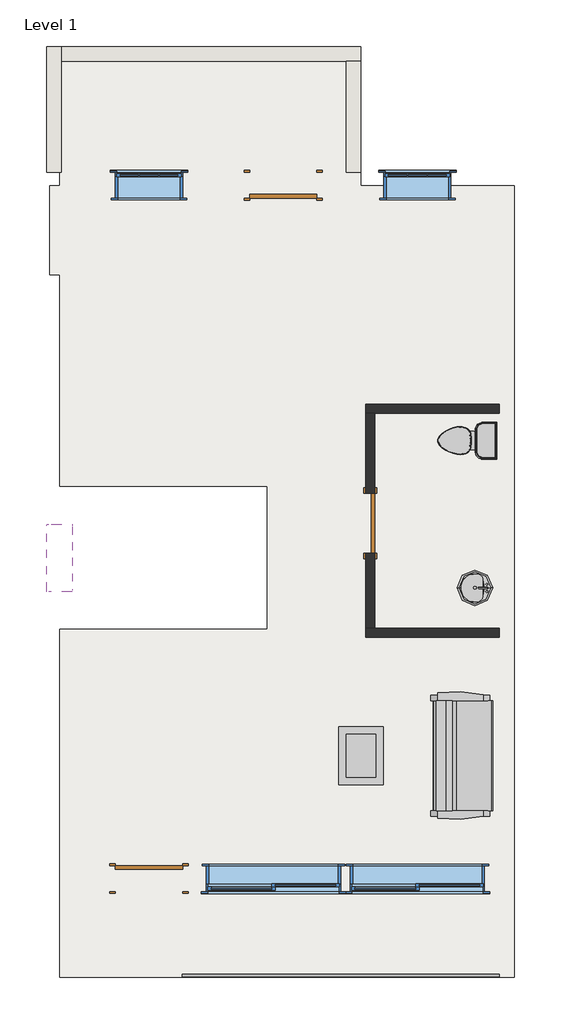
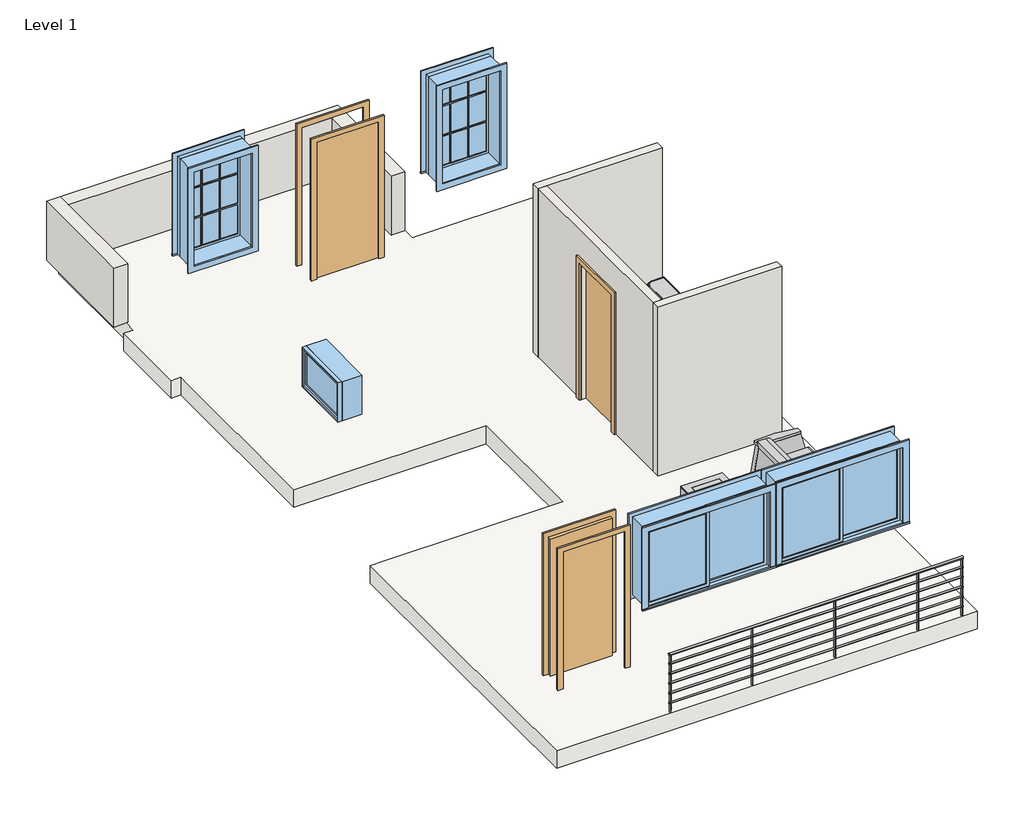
# One storey: 6 walls, 5 windows, 3 doors, 2 flow terminals, 2 furniture elements, 1 railing, 1 slab.
"""IFC4 building model written with IfcOpenShell, lengths in millimetres."""

from ifc_helpers import new_model, si_unit, frame, origin, place, context, project, spatial, polyline, outline, extrude, faceted_brep, transform, mapped, element, save
from components import door_8a652669, door_cc5399a4, flow_terminal_5184717d, toilet_domestic_3d_toilet_domestic_3d_f7549cf7, toilet_domestic_3d_toilet_domestic_3d_183bbd19, furniture_7c795298, furniture_5f90431c, handrail_pipe_c4519676, window_2a808394, window_50e48787, slider_with_trim_6_x_4_a8a94e5b

model = new_model("IFC4")

# Units and contexts
model_context = context("Model", 3, world=origin())
ifc_project = project(units=[si_unit("LENGTHUNIT", "METRE", prefix="MILLI")], contexts=[model_context])

# Site, building, storey
site = spatial("IfcSite", under=ifc_project)
building = spatial("IfcBuilding", under=site)
storey = spatial("IfcBuildingStorey", under=building, Name="Level 1", Elevation=152.4)

# Doors
placement = place(None, origin())
door_shape = door_8a652669(model_context)
element("IfcDoor", 1, ObjectType="Single-Flush : 32\" x 84\"", at=placement, inside=storey, context=model_context, shape_type="MappedRepresentation", body=[
    mapped(door_shape, transform((-3823.7391822, -84.3406402, 152.4), x_axis=(0.0, -1.0, 0.0), y_axis=(1.0, 0.0, 0.0), z_axis=(0.0, 0.0, 1.0))),
])
door_2_shape = door_cc5399a4(model_context)
element("IfcDoor", 2, ObjectType="Single-Flush : 36\" x 84\"", at=placement, inside=storey, context=model_context, shape_type="MappedRepresentation", body=[
    mapped(door_2_shape, transform((-6838.6266822, -4926.5671527, 152.4), x_axis=(-1.0, 0.0, 0.0), y_axis=(0.0, -1.0, 0.0), z_axis=(0.0, 0.0, 1.0))),
])
element("IfcDoor", 3, ObjectType="Single-Flush : 36\" x 84\"", at=placement, inside=storey, context=model_context, shape_type="MappedRepresentation", body=[
    mapped(door_2_shape, transform((-5009.8266822, 4522.2328473, 152.4), x_axis=(1.0, 0.0, 0.0), y_axis=(0.0, 1.0, 0.0), z_axis=(0.0, 0.0, 1.0))),
])

# Flow terminals
flow_terminal_shape = flow_terminal_5184717d(model_context)
element("IfcFlowTerminal", 4, ObjectType="Sink Vanity-Round : 19\" x 19\"", at=placement, inside=storey, context=model_context, shape_type="MappedRepresentation", body=[
    mapped(flow_terminal_shape, transform((-2481.4533799, -867.5154122, 152.4), x_axis=(0.0, -1.0, 0.0), y_axis=(1.0, 0.0, 0.0), z_axis=(0.0, 0.0, 1.0))),
])
toilet_domestic_3d_toilet_domestic_3d_shape = toilet_domestic_3d_toilet_domestic_3d_f7549cf7(model_context)
toilet_domestic_3d_toilet_domestic_3d_2_shape = toilet_domestic_3d_toilet_domestic_3d_183bbd19(model_context)
element("IfcFlowTerminal", 5, ObjectType="Toilet-Domestic-3D : Toilet-Domestic-3D", at=placement, inside=storey, context=model_context, shape_type="MappedRepresentation", body=[
    mapped(toilet_domestic_3d_toilet_domestic_3d_shape, transform((-2596.8266822, 1042.4328473, 152.4), x_axis=(0.0, -1.0, 0.0), y_axis=(1.0, 0.0, 0.0), z_axis=(0.0, 0.0, 1.0))),
    mapped(toilet_domestic_3d_toilet_domestic_3d_2_shape, transform((-2596.8266822, 1042.4328473, 152.4), x_axis=(0.0, -1.0, 0.0), y_axis=(1.0, 0.0, 0.0), z_axis=(0.0, 0.0, 1.0))),
])

# Furniture
furniture_shape = furniture_7c795298(model_context)
element("IfcFurniture", 6, ObjectType="Sofa-Pensi : 65\"", at=placement, inside=storey, context=model_context, shape_type="MappedRepresentation", body=[
    mapped(furniture_shape, transform((-2294.3168461, -3528.7734027, 152.4), x_axis=(0.0, 1.0, 0.0), y_axis=(-1.0, 0.0, 0.0), z_axis=(0.0, 0.0, 1.0))),
])
furniture_2_shape = furniture_5f90431c(model_context)
element("IfcFurniture", 7, ObjectType="Table-Coffee : 31\" x 28\" x 24\"", at=placement, inside=storey, context=model_context, shape_type="MappedRepresentation", body=[
    mapped(furniture_2_shape, transform((-3931.9609155, -3154.9560749, 152.4), x_axis=(-1.0, 0.0, 0.0), y_axis=(0.0, -1.0, 0.0), z_axis=(0.0, 0.0, 1.0))),
])

# Railing
handrail_pipe_shape = handrail_pipe_c4519676(model_context)
element("IfcRailing", 8, ObjectType="Handrail - Pipe", at=placement, inside=storey, context=model_context, shape_type="MappedRepresentation", body=[
    mapped(handrail_pipe_shape, transform((0.0, 0.0, 0.0), x_axis=(1.0, 0.0, 0.0), y_axis=(0.0, 1.0, 0.0), z_axis=(0.0, 0.0, 1.0))),
])

# Slab
element("IfcSlab", 9, ObjectType="Wood Joist 10\" - Ceramic Tile", at=placement, inside=storey, context=model_context, shape_type="Brep", body=[
    faceted_brep([(-3950.2266822, 4515.7328473, -120.65), (-2063.4266822, 4515.7328473, -120.65), (-1860.2266822, 4515.7328473, -120.65), (-1860.2266822, -6272.0671527, -120.65), (-2063.4266822, -6272.0671527, -120.65), (-8053.6141822, -6272.0671527, -120.65), (-8053.6141822, -5102.7796527, -120.65), (-8053.6141822, -1525.6656402, -120.65), (-7881.6141822, -1525.6656402, -120.65), (-5225.2266822, -1525.6656402, -120.65), (-5225.2266822, 422.1593598, -120.65), (-7881.6141822, 422.1593598, -120.65), (-8053.6141822, 422.1593598, -120.65), (-8053.6141822, 3300.7328473, -120.65), (-8193.6141822, 3300.7328473, -120.65), (-8193.6141822, 4512.2328473, -120.65), (-8053.6141822, 4512.2328473, -120.65), (-8053.6141822, 4698.4453473, -120.65), (-8053.6141822, 6412.2328473, -120.65), (-3950.2266822, 6412.2328473, -120.65), (-3950.2266822, 4515.7328473, 152.4), (-3950.2266822, 6412.2328473, 152.4), (-8053.6141822, 6412.2328473, 152.4), (-8053.6141822, 4698.4453473, 152.4), (-8053.6141822, 4512.2328473, 152.4), (-8193.6141822, 4512.2328473, 152.4), (-8193.6141822, 3300.7328473, 152.4), (-8053.6141822, 3300.7328473, 152.4), (-8053.6141822, 422.1593598, 152.4), (-7881.6141822, 422.1593598, 152.4), (-5225.2266822, 422.1593598, 152.4), (-5225.2266822, -1525.6656402, 152.4), (-7881.6141822, -1525.6656402, 152.4), (-8053.6141822, -1525.6656402, 152.4), (-8053.6141822, -5102.7796527, 152.4), (-8053.6141822, -6272.0671527, 152.4), (-2063.4266822, -6272.0671527, 152.4), (-1860.2266822, -6272.0671527, 152.4), (-1860.2266822, 4515.7328473, 152.4), (-2063.4266822, 4515.7328473, 152.4)], [[[0, 1, 2, 3, 4, 5, 6, 7, 8, 9, 10, 11, 12, 13, 14, 15, 16, 17, 18, 19]], [[20, 21, 22, 23, 24, 25, 26, 27, 28, 29, 30, 31, 32, 33, 34, 35, 36, 37, 38, 39]], [[2, 1, 0, 20, 39, 38]], [[3, 2, 38, 37]], [[5, 4, 3, 37, 36, 35]], [[7, 6, 5, 35, 34, 33]], [[9, 8, 7, 33, 32, 31]], [[10, 9, 31, 30]], [[12, 11, 10, 30, 29, 28]], [[13, 12, 28, 27]], [[14, 13, 27, 26]], [[15, 14, 26, 25]], [[16, 15, 25, 24]], [[18, 17, 16, 24, 23, 22]], [[19, 18, 22, 21]], [[0, 19, 21, 20]]]),
])

# Walls
element("IfcWall", 10, ObjectType="Generic - 8\"", at=placement, inside=storey, context=model_context, shape_type="Brep", body=[
    faceted_brep([(-8030.8391822, 4698.4453473, 152.4), (-8030.8391822, 6209.0328473, 152.4), (-8030.8391822, 6412.2328473, 152.4), (-8030.8391822, 6412.2328473, 1066.8), (-8030.8391822, 6209.0328473, 1066.8), (-8030.8391822, 4698.4453473, 1066.8), (-8234.0391822, 4698.4453473, 152.4), (-8234.0391822, 4698.4453473, 1066.8), (-8234.0391822, 6412.2328473, 1066.8), (-8234.0391822, 6412.2328473, 152.4)], [[[0, 1, 2, 3, 4, 5]], [[6, 7, 8, 9]], [[2, 1, 0, 6, 9]], [[5, 4, 3, 8, 7]], [[3, 2, 9, 8]], [[0, 5, 7, 6]]]),
])
element("IfcWall", 11, ObjectType="Generic - 8\"", at=placement, inside=storey, context=model_context, shape_type="Brep", body=[
    faceted_brep([(-8030.8391822, 6209.0328473, 152.4), (-4153.4266822, 6209.0328473, 152.4), (-3950.2266822, 6209.0328473, 152.4), (-3950.2266822, 6209.0328473, 1066.8), (-4153.4266822, 6209.0328473, 1066.8), (-8030.8391822, 6209.0328473, 1066.8), (-8030.8391822, 6412.2328473, 152.4), (-8030.8391822, 6412.2328473, 1066.8), (-3950.2266822, 6412.2328473, 1066.8), (-3950.2266822, 6412.2328473, 152.4)], [[[0, 1, 2, 3, 4, 5]], [[6, 7, 8, 9]], [[2, 1, 0, 6, 9]], [[5, 4, 3, 8, 7]], [[3, 2, 9, 8]], [[0, 5, 7, 6]]]),
])
element("IfcWall", 12, ObjectType="Generic - 8\"", at=placement, inside=storey, context=model_context, shape_type="SweptSolid", body=[
    extrude(outline(polyline([(-4153.4266822, 4698.4453473), (-4153.4266822, 6209.0328473), (-3950.2266822, 6209.0328473), (-3950.2266822, 4698.4453473), (-4153.4266822, 4698.4453473)])), frame((0.0, 0.0, 152.4), z_axis=(0.0, 0.0, 1.0), x_axis=(1.0, 0.0, 0.0)), (0.0, 0.0, 1.0), 914.4),
])
element("IfcWall", 13, ObjectType="Interior - 4 7/8\" Partition (1-hr)", at=placement, inside=storey, context=model_context, shape_type="Brep", body=[
    faceted_brep([(-2063.4266822, -1511.8546527, 152.4), (-3761.8266822, -1511.8546527, 152.4), (-3885.6516822, -1511.8546527, 152.4), (-3885.6516822, -1511.8546527, 2774.95), (-3761.8266822, -1511.8546527, 2774.95), (-2063.4266822, -1511.8546527, 2774.95), (-2063.4266822, -1635.6796527, 152.4), (-2063.4266822, -1635.6796527, 2774.95), (-3885.6516822, -1635.6796527, 2774.95), (-3885.6516822, -1635.6796527, 152.4)], [[[0, 1, 2, 3, 4, 5]], [[6, 7, 8, 9]], [[2, 1, 0, 6, 9]], [[3, 2, 9, 8]], [[0, 5, 7, 6]], [[5, 4, 3, 8, 7]]]),
])
element("IfcWall", 14, ObjectType="Interior - 4 7/8\" Partition (1-hr)", at=placement, inside=storey, context=model_context, shape_type="Brep", body=[
    faceted_brep([(-3885.6516822, 1412.3203473, 152.4), (-3761.8266822, 1412.3203473, 152.4), (-2063.4266822, 1412.3203473, 152.4), (-2063.4266822, 1412.3203473, 2774.95), (-3761.8266822, 1412.3203473, 2774.95), (-3885.6516822, 1412.3203473, 2774.95), (-3885.6516822, 1536.1453473, 152.4), (-3885.6516822, 1536.1453473, 2774.95), (-2063.4266822, 1536.1453473, 2774.95), (-2063.4266822, 1536.1453473, 152.4)], [[[0, 1, 2, 3, 4, 5]], [[6, 7, 8, 9]], [[2, 1, 0, 6, 9]], [[0, 5, 7, 6]], [[3, 2, 9, 8]], [[5, 4, 3, 8, 7]]]),
])
element("IfcWall", 15, ObjectType="Interior - 4 7/8\" Partition (1-hr)", at=placement, inside=storey, context=model_context, shape_type="SweptSolid", body=[
    extrude(outline(polyline([(-490.7406402, 2286.0), (-490.7406402, 152.4), (-1511.8546527, 152.4), (-1511.8546527, 2774.95), (1412.3203473, 2774.95), (1412.3203473, 152.4), (322.0593598, 152.4), (322.0593598, 2286.0), (-490.7406402, 2286.0)])), frame((-3885.6516822, 0.0, 0.0), z_axis=(1.0, 0.0, 0.0), x_axis=(0.0, 1.0, 0.0)), (0.0, 0.0, 1.0), 123.825),
])

# Windows
window_shape = window_2a808394(model_context)
element("IfcWindow", 16, ObjectType="Casement 3x3 with Trim : 36\" x 60\"", at=placement, inside=storey, context=model_context, shape_type="MappedRepresentation", body=[
    mapped(window_shape, transform((-3181.0266822, 4522.2328473, 342.8), x_axis=(1.0, 0.0, 0.0), y_axis=(0.0, 1.0, 0.0), z_axis=(0.0, 0.0, 1.0))),
])
element("IfcWindow", 17, ObjectType="Casement 3x3 with Trim : 36\" x 60\"", at=placement, inside=storey, context=model_context, shape_type="MappedRepresentation", body=[
    mapped(window_shape, transform((-6838.6266822, 4522.2328473, 342.8), x_axis=(1.0, 0.0, 0.0), y_axis=(0.0, 1.0, 0.0), z_axis=(0.0, 0.0, 1.0))),
])
window_2_shape = window_50e48787(model_context)
element("IfcWindow", 18, ObjectType="Fixed : 36\" x 24\"", at=placement, inside=storey, context=model_context, shape_type="MappedRepresentation", body=[
    mapped(window_2_shape, transform((-8057.8266822, -518.7406402, 1221.8025508), x_axis=(0.0, 1.0, 0.0), y_axis=(-1.0, 0.0, 0.0), z_axis=(0.0, 0.0, 1.0))),
])
slider_with_trim_6_x_4_shape = slider_with_trim_6_x_4_a8a94e5b(model_context)
element("IfcWindow", 19, ObjectType="Slider with Trim : 6' X 4'", at=placement, inside=storey, context=model_context, shape_type="MappedRepresentation", body=[
    mapped(slider_with_trim_6_x_4_shape, transform((-3181.0266822, -4926.5671527, 38.0), x_axis=(-1.0, 0.0, 0.0), y_axis=(0.0, -1.0, 0.0), z_axis=(0.0, 0.0, 1.0))),
])
element("IfcWindow", 20, ObjectType="Slider with Trim : 6' X 4'", at=placement, inside=storey, context=model_context, shape_type="MappedRepresentation", body=[
    mapped(slider_with_trim_6_x_4_shape, transform((-5141.9860572, -4926.5671527, 38.0), x_axis=(-1.0, 0.0, 0.0), y_axis=(0.0, -1.0, 0.0), z_axis=(0.0, 0.0, 1.0))),
])

save(model, "model.ifc")
